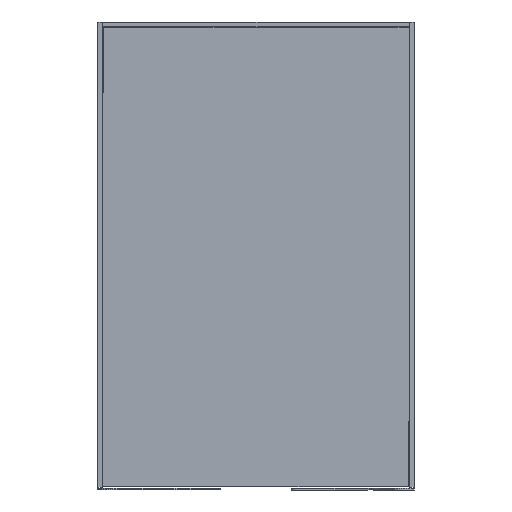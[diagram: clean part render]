
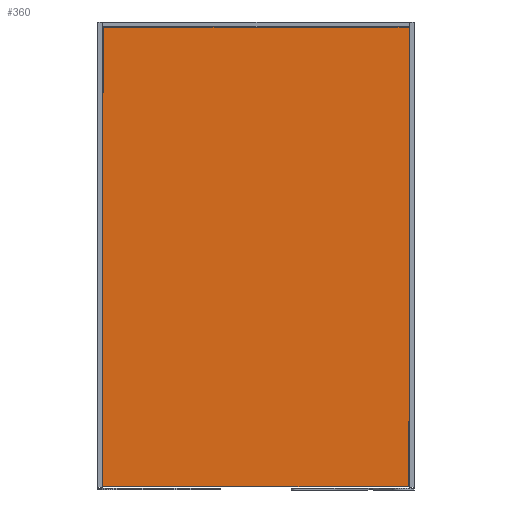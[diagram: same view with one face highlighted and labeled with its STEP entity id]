
A CAD part, front view. The second image highlights one B-rep face of the part: STEP entity #360.
In plain terms, the highlighted planar face has unit normal (0, -1, 0).
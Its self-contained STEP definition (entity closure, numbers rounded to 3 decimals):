
#360=ADVANCED_FACE('',(#458),#1524,.T.);
#458=FACE_OUTER_BOUND('',#556,.T.);
#556=EDGE_LOOP('',(#690,#691));
#690=ORIENTED_EDGE('',*,*,#1110,.T.);
#691=ORIENTED_EDGE('',*,*,#1114,.T.);
#1110=EDGE_CURVE('',#1374,#1376,#1320,.T.);
#1114=EDGE_CURVE('',#1376,#1374,#1324,.T.);
#1320=(
BOUNDED_CURVE()
B_SPLINE_CURVE(2,(#2164,#2165,#2166,#2167,#2168,#2169,#2170,#2171,#2172),
 .UNSPECIFIED.,.F.,.F.)
B_SPLINE_CURVE_WITH_KNOTS((3,2,2,2,3),(5983.145,5986.287,
7778.287,7781.428,8973.43),.UNSPECIFIED.)
CURVE()
GEOMETRIC_REPRESENTATION_ITEM()
RATIONAL_B_SPLINE_CURVE((1.,0.707,1.,1.,1.,0.707,
1.,1.,1.))
REPRESENTATION_ITEM('')
);
#1324=(
BOUNDED_CURVE()
B_SPLINE_CURVE(2,(#2186,#2187,#2188,#2189,#2190,#2191,#2192,#2193,#2194),
 .UNSPECIFIED.,.F.,.F.)
B_SPLINE_CURVE_WITH_KNOTS((3,2,2,2,3),(8973.43,8976.572,
10768.572,10771.714,11963.715),.UNSPECIFIED.)
CURVE()
GEOMETRIC_REPRESENTATION_ITEM()
RATIONAL_B_SPLINE_CURVE((1.,0.707,1.,1.,1.,0.707,
1.,1.,1.))
REPRESENTATION_ITEM('')
);
#1374=VERTEX_POINT('',#2160);
#1376=VERTEX_POINT('',#2162);
#1524=PLANE('',#1652);
#1652=AXIS2_PLACEMENT_3D('',#2122,#1839,$);
#1839=DIRECTION('',(0.,-1.,0.));
#2122=CARTESIAN_POINT('',(3670.503,367.,-5.955));
#2160=CARTESIAN_POINT('',(4876.464,367.,12.005));
#2162=CARTESIAN_POINT('',(3684.463,367.,1808.005));
#2164=CARTESIAN_POINT('',(4876.464,367.,12.005));
#2165=CARTESIAN_POINT('',(4878.464,367.,12.005));
#2166=CARTESIAN_POINT('',(4878.464,367.,14.005));
#2167=CARTESIAN_POINT('',(4878.464,367.,910.005));
#2168=CARTESIAN_POINT('',(4878.464,367.,1806.005));
#2169=CARTESIAN_POINT('',(4878.464,367.,1808.005));
#2170=CARTESIAN_POINT('',(4876.464,367.,1808.005));
#2171=CARTESIAN_POINT('',(4280.463,367.,1808.005));
#2172=CARTESIAN_POINT('',(3684.463,367.,1808.005));
#2186=CARTESIAN_POINT('',(3684.463,367.,1808.005));
#2187=CARTESIAN_POINT('',(3682.463,367.,1808.005));
#2188=CARTESIAN_POINT('',(3682.463,367.,1806.005));
#2189=CARTESIAN_POINT('',(3682.463,367.,910.005));
#2190=CARTESIAN_POINT('',(3682.463,367.,14.005));
#2191=CARTESIAN_POINT('',(3682.463,367.,12.005));
#2192=CARTESIAN_POINT('',(3684.463,367.,12.005));
#2193=CARTESIAN_POINT('',(4280.463,367.,12.005));
#2194=CARTESIAN_POINT('',(4876.464,367.,12.005));
